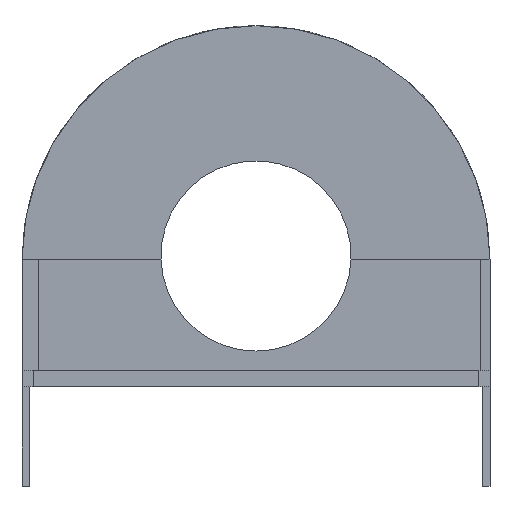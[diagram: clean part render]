
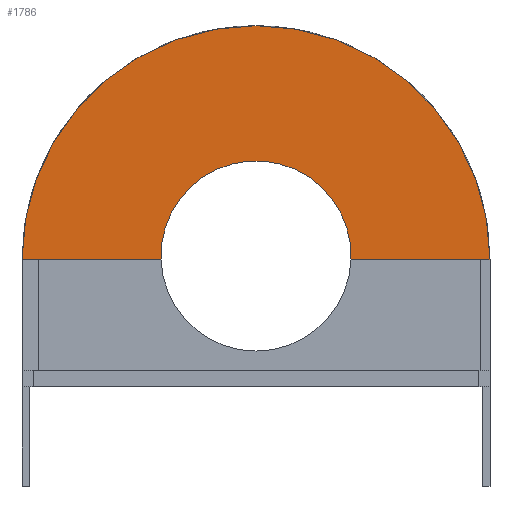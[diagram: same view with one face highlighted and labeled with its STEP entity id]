
A CAD part, left-side view. The second image highlights one B-rep face of the part: STEP entity #1786.
In plain terms, the highlighted planar face has unit normal (-1, 0, 0).
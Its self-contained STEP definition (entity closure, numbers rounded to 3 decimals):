
#1335 = PLANE('',#1336);
#1336 = AXIS2_PLACEMENT_3D('',#1337,#1338,#1339);
#1337 = CARTESIAN_POINT('',(47.25,0.25,15.75));
#1338 = DIRECTION('',(1.,0.,0.));
#1339 = DIRECTION('',(0.,0.,1.));
#1433 = VERTEX_POINT('',#1434);
#1434 = CARTESIAN_POINT('',(47.25,0.25,32.));
#1457 = VERTEX_POINT('',#1458);
#1458 = CARTESIAN_POINT('',(47.25,63.75,32.));
#1479 = EDGE_CURVE('',#1480,#1457,#1482,.T.);
#1480 = VERTEX_POINT('',#1481);
#1481 = CARTESIAN_POINT('',(47.25,44.89,32.));
#1482 = SURFACE_CURVE('',#1483,(#1487,#1494),.PCURVE_S1.);
#1483 = LINE('',#1484,#1485);
#1484 = CARTESIAN_POINT('',(47.25,32.,32.));
#1485 = VECTOR('',#1486,1.);
#1486 = DIRECTION('',(0.,1.,0.));
#1487 = PCURVE('',#1335,#1488);
#1488 = DEFINITIONAL_REPRESENTATION('',(#1489),#1493);
#1489 = LINE('',#1490,#1491);
#1490 = CARTESIAN_POINT('',(16.25,-31.75));
#1491 = VECTOR('',#1492,1.);
#1492 = DIRECTION('',(0.,-1.));
#1493 = ( GEOMETRIC_REPRESENTATION_CONTEXT(2) 
PARAMETRIC_REPRESENTATION_CONTEXT() REPRESENTATION_CONTEXT('2D SPACE',''
  ) );
#1494 = PCURVE('',#1495,#1500);
#1495 = PLANE('',#1496);
#1496 = AXIS2_PLACEMENT_3D('',#1497,#1498,#1499);
#1497 = CARTESIAN_POINT('',(47.25,32.,32.));
#1498 = DIRECTION('',(1.,0.,0.));
#1499 = DIRECTION('',(0.,1.,0.));
#1500 = DEFINITIONAL_REPRESENTATION('',(#1501),#1505);
#1501 = LINE('',#1502,#1503);
#1502 = CARTESIAN_POINT('',(0.,0.));
#1503 = VECTOR('',#1504,1.);
#1504 = DIRECTION('',(1.,0.));
#1505 = ( GEOMETRIC_REPRESENTATION_CONTEXT(2) 
PARAMETRIC_REPRESENTATION_CONTEXT() REPRESENTATION_CONTEXT('2D SPACE',''
  ) );
#1524 = CYLINDRICAL_SURFACE('',#1525,12.9);
#1525 = AXIS2_PLACEMENT_3D('',#1526,#1527,#1528);
#1526 = CARTESIAN_POINT('',(45.75,32.,32.5));
#1527 = DIRECTION('',(1.,0.,0.));
#1528 = DIRECTION('',(0.,0.,-1.));
#1537 = VERTEX_POINT('',#1538);
#1538 = CARTESIAN_POINT('',(47.25,19.11,32.));
#1560 = EDGE_CURVE('',#1537,#1433,#1561,.T.);
#1561 = SURFACE_CURVE('',#1562,(#1566,#1573),.PCURVE_S1.);
#1562 = LINE('',#1563,#1564);
#1563 = CARTESIAN_POINT('',(47.25,32.,32.));
#1564 = VECTOR('',#1565,1.);
#1565 = DIRECTION('',(0.,-1.,0.));
#1566 = PCURVE('',#1335,#1567);
#1567 = DEFINITIONAL_REPRESENTATION('',(#1568),#1572);
#1568 = LINE('',#1569,#1570);
#1569 = CARTESIAN_POINT('',(16.25,-31.75));
#1570 = VECTOR('',#1571,1.);
#1571 = DIRECTION('',(0.,1.));
#1572 = ( GEOMETRIC_REPRESENTATION_CONTEXT(2) 
PARAMETRIC_REPRESENTATION_CONTEXT() REPRESENTATION_CONTEXT('2D SPACE',''
  ) );
#1573 = PCURVE('',#1495,#1574);
#1574 = DEFINITIONAL_REPRESENTATION('',(#1575),#1579);
#1575 = LINE('',#1576,#1577);
#1576 = CARTESIAN_POINT('',(0.,0.));
#1577 = VECTOR('',#1578,1.);
#1578 = DIRECTION('',(-1.,0.));
#1579 = ( GEOMETRIC_REPRESENTATION_CONTEXT(2) 
PARAMETRIC_REPRESENTATION_CONTEXT() REPRESENTATION_CONTEXT('2D SPACE',''
  ) );
#1602 = CYLINDRICAL_SURFACE('',#1603,31.75);
#1603 = AXIS2_PLACEMENT_3D('',#1604,#1605,#1606);
#1604 = CARTESIAN_POINT('',(47.25,32.,32.));
#1605 = DIRECTION('',(1.,0.,0.));
#1606 = DIRECTION('',(0.,1.,0.));
#1786 = ADVANCED_FACE('',(#1787),#1495,.F.);
#1787 = FACE_BOUND('',#1788,.F.);
#1788 = EDGE_LOOP('',(#1789,#1790,#1812,#1813));
#1789 = ORIENTED_EDGE('',*,*,#1479,.T.);
#1790 = ORIENTED_EDGE('',*,*,#1791,.T.);
#1791 = EDGE_CURVE('',#1457,#1433,#1792,.T.);
#1792 = SURFACE_CURVE('',#1793,(#1798,#1805),.PCURVE_S1.);
#1793 = CIRCLE('',#1794,31.75);
#1794 = AXIS2_PLACEMENT_3D('',#1795,#1796,#1797);
#1795 = CARTESIAN_POINT('',(47.25,32.,32.));
#1796 = DIRECTION('',(1.,0.,0.));
#1797 = DIRECTION('',(0.,1.,0.));
#1798 = PCURVE('',#1495,#1799);
#1799 = DEFINITIONAL_REPRESENTATION('',(#1800),#1804);
#1800 = CIRCLE('',#1801,31.75);
#1801 = AXIS2_PLACEMENT_2D('',#1802,#1803);
#1802 = CARTESIAN_POINT('',(0.,0.));
#1803 = DIRECTION('',(1.,0.));
#1804 = ( GEOMETRIC_REPRESENTATION_CONTEXT(2) 
PARAMETRIC_REPRESENTATION_CONTEXT() REPRESENTATION_CONTEXT('2D SPACE',''
  ) );
#1805 = PCURVE('',#1602,#1806);
#1806 = DEFINITIONAL_REPRESENTATION('',(#1807),#1811);
#1807 = LINE('',#1808,#1809);
#1808 = CARTESIAN_POINT('',(0.,0.));
#1809 = VECTOR('',#1810,1.);
#1810 = DIRECTION('',(1.,0.));
#1811 = ( GEOMETRIC_REPRESENTATION_CONTEXT(2) 
PARAMETRIC_REPRESENTATION_CONTEXT() REPRESENTATION_CONTEXT('2D SPACE',''
  ) );
#1812 = ORIENTED_EDGE('',*,*,#1560,.F.);
#1813 = ORIENTED_EDGE('',*,*,#1814,.F.);
#1814 = EDGE_CURVE('',#1480,#1537,#1815,.T.);
#1815 = SURFACE_CURVE('',#1816,(#1821,#1828),.PCURVE_S1.);
#1816 = CIRCLE('',#1817,12.9);
#1817 = AXIS2_PLACEMENT_3D('',#1818,#1819,#1820);
#1818 = CARTESIAN_POINT('',(47.25,32.,32.5));
#1819 = DIRECTION('',(1.,0.,0.));
#1820 = DIRECTION('',(0.,0.,-1.));
#1821 = PCURVE('',#1495,#1822);
#1822 = DEFINITIONAL_REPRESENTATION('',(#1823),#1827);
#1823 = CIRCLE('',#1824,12.9);
#1824 = AXIS2_PLACEMENT_2D('',#1825,#1826);
#1825 = CARTESIAN_POINT('',(0.,0.5));
#1826 = DIRECTION('',(0.,-1.));
#1827 = ( GEOMETRIC_REPRESENTATION_CONTEXT(2) 
PARAMETRIC_REPRESENTATION_CONTEXT() REPRESENTATION_CONTEXT('2D SPACE',''
  ) );
#1828 = PCURVE('',#1524,#1829);
#1829 = DEFINITIONAL_REPRESENTATION('',(#1830),#1834);
#1830 = LINE('',#1831,#1832);
#1831 = CARTESIAN_POINT('',(0.,1.5));
#1832 = VECTOR('',#1833,1.);
#1833 = DIRECTION('',(1.,0.));
#1834 = ( GEOMETRIC_REPRESENTATION_CONTEXT(2) 
PARAMETRIC_REPRESENTATION_CONTEXT() REPRESENTATION_CONTEXT('2D SPACE',''
  ) );
